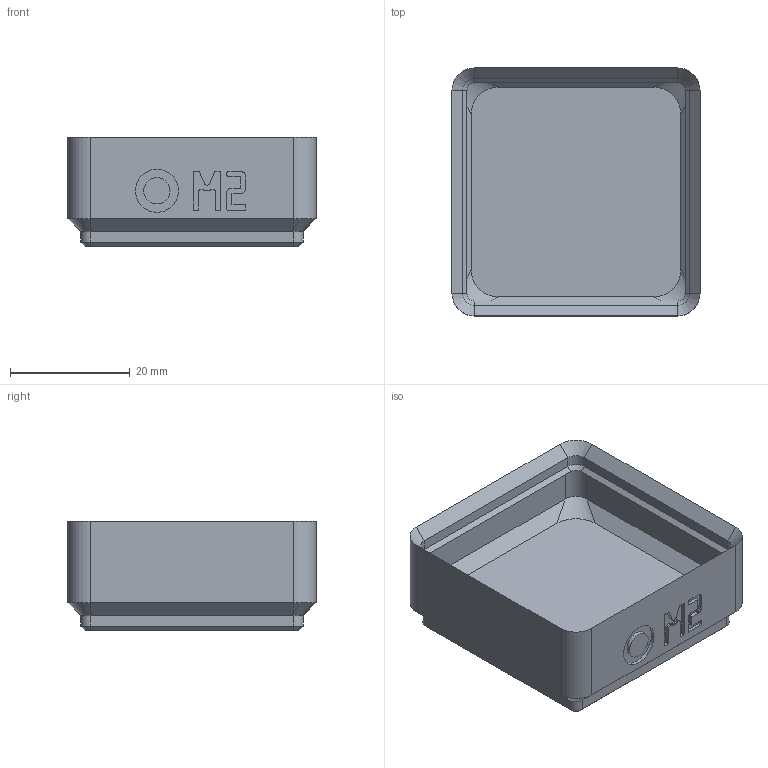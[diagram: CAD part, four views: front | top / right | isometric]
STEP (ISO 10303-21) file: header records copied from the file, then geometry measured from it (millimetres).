
FILE_DESCRIPTION(('Open CASCADE Model'),'2;1');
FILE_NAME('bin_wshr_m2','2026-11-03T16:47:28',('Author'),('Open CASCADE' ),'Open CASCADE STEP processor 8.0','build123d','Unknown');
FILE_SCHEMA(('AUTOMOTIVE_DESIGN { 1 0 10303 214 1 1 1 1 }'));
Length unit declared in the file: millimetre
Products named in the file (1): bin_wshr_m2
Bounding box: 41.5 x 41.5 x 18.4 mm (x, y, z)
Volume: 10998.5 mm3; surface area: 8274.8 mm2
Topology: 1 solids, 1 shells, 330 faces, 889 edges, 574 vertices
Faces by surface type: plane 280, cylinder 26, cone 16, bspline 8
Full cylindrical faces by diameter (mm): 3.2 x4, 4.4 x1, 6.5 x4, 7.2 x1
Entity records: 21120 total; most frequent: CARTESIAN_POINT 4318, DIRECTION 2741, LINE 1937, VECTOR 1937, ORIENTED_EDGE 1778, PCURVE 1778, DEFINITIONAL_REPRESENTATION 1778, EDGE_CURVE 889
